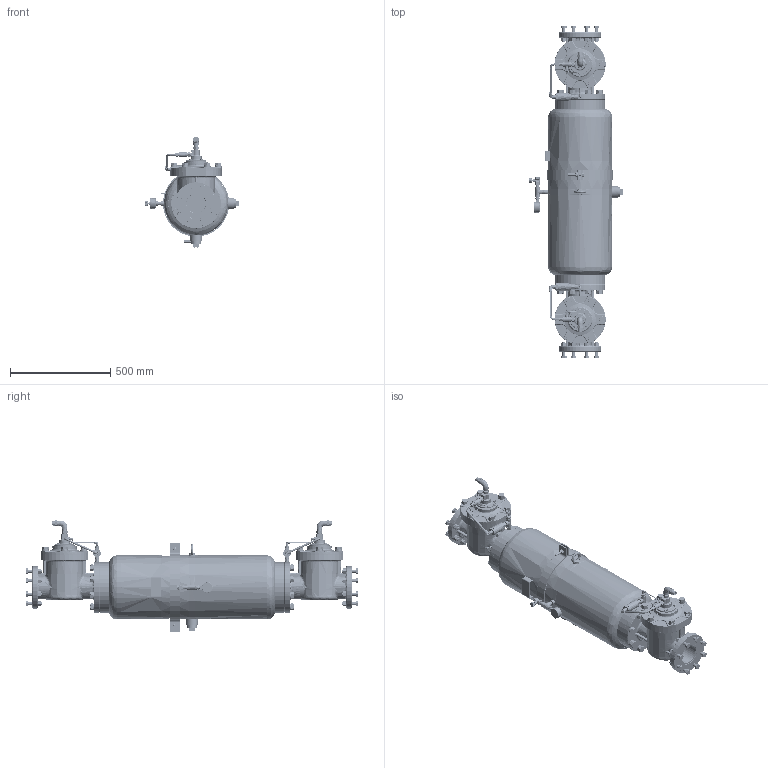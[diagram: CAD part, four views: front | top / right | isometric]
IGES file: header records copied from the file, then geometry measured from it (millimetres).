
Start section: SolidWorks IGES file using analytic representation for surfaces
Global section: file name: V:\WORK\08133\HP 寸法図\blaster\EDB4-60T\test_907000W-000 EDB4-60T_defeature.IGS,15; native system: HSolidWorks 2018; preprocessor: SolidWorks 2018; author: n-udagawa; date: 230118.170943; units: millimetre
Bounding box: 471.16 x 1653.5 x 553.98 mm (x, y, z)
Surface area: 2351637 mm2 (no closed solid volume)
Topology: 0 solids, 0 shells, 4224 faces, 73969 edges, 83953 vertices
Faces by surface type: bspline 2240, revolution 1984
